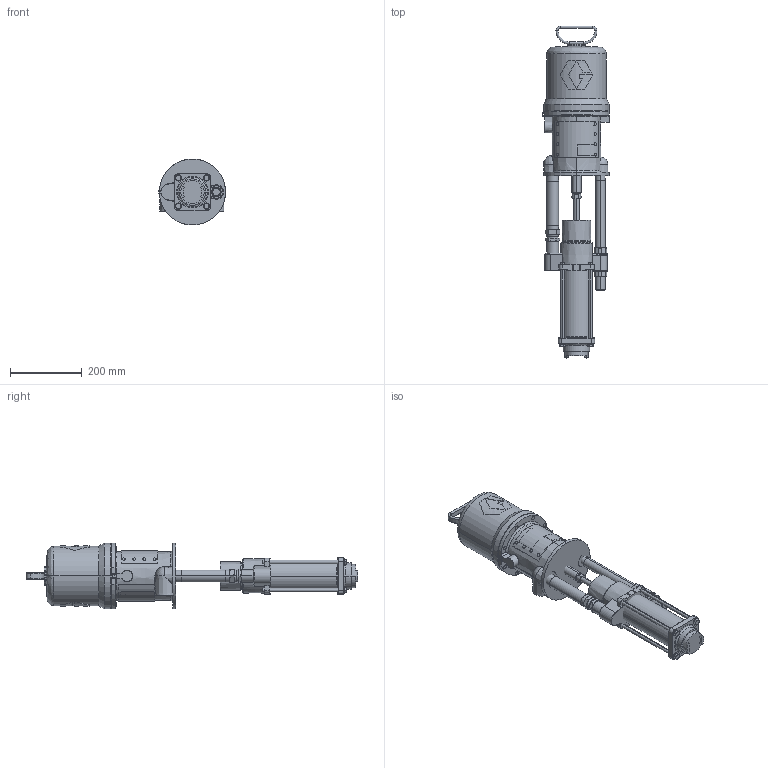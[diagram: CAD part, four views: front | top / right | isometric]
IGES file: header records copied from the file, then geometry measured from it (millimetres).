
Start section:  PTC IGES file: 223184-en-r.igs
Global section: file name: 223184-en-r.igs; native system: Creo Parametric by PTC Inc.; preprocessor: 2021072; author: qtmwp1; organization: Unknown; date: 20220214.110005; units: inch
Bounding box: 186.82 x 926.33 x 184.15 mm (x, y, z)
Surface area: 643044 mm2 (no closed solid volume)
Topology: 0 solids, 0 shells, 489 faces, 2270 edges, 2267 vertices
Faces by surface type: revolution 281, bspline 208
